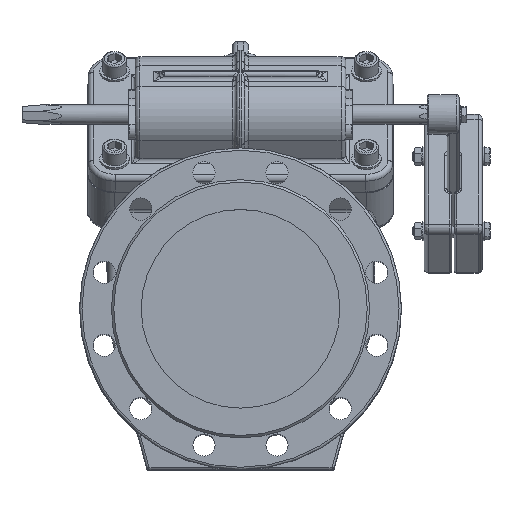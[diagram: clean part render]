
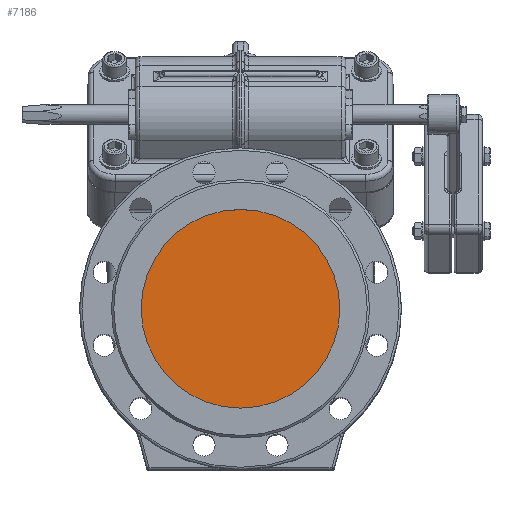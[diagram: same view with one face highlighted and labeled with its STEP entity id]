
A CAD part, top view. The second image highlights one B-rep face of the part: STEP entity #7186.
In plain terms, the highlighted planar face has unit normal (0, 0, 1).
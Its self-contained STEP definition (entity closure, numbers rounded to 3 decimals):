
#7186=ADVANCED_FACE('',(#21336),#21338,.F.);
#21336=FACE_BOUND('',#21337,.T.);
#21337=EDGE_LOOP('',(#31099));
#21338=PLANE('',#21339);
#21339=AXIS2_PLACEMENT_3D('',#21340,#21341,#21342);
#21340=CARTESIAN_POINT('',(0.,0.,255.));
#21341=DIRECTION('',(0.,0.,-1.));
#21342=DIRECTION('',(-1.,0.,0.));
#31099=ORIENTED_EDGE('',*,*,#35279,.T.);
#35279=EDGE_CURVE('',#39588,#39588,#39589,.T.);
#39588=VERTEX_POINT('',#64893);
#39589=CIRCLE('',#64894,125.);
#64893=CARTESIAN_POINT('',(0.,125.,255.));
#64894=AXIS2_PLACEMENT_3D('',#64895,#64896,#64897);
#64895=CARTESIAN_POINT('',(0.,0.,255.));
#64896=DIRECTION('',(0.,0.,1.));
#64897=DIRECTION('',(-1.,0.,0.));
